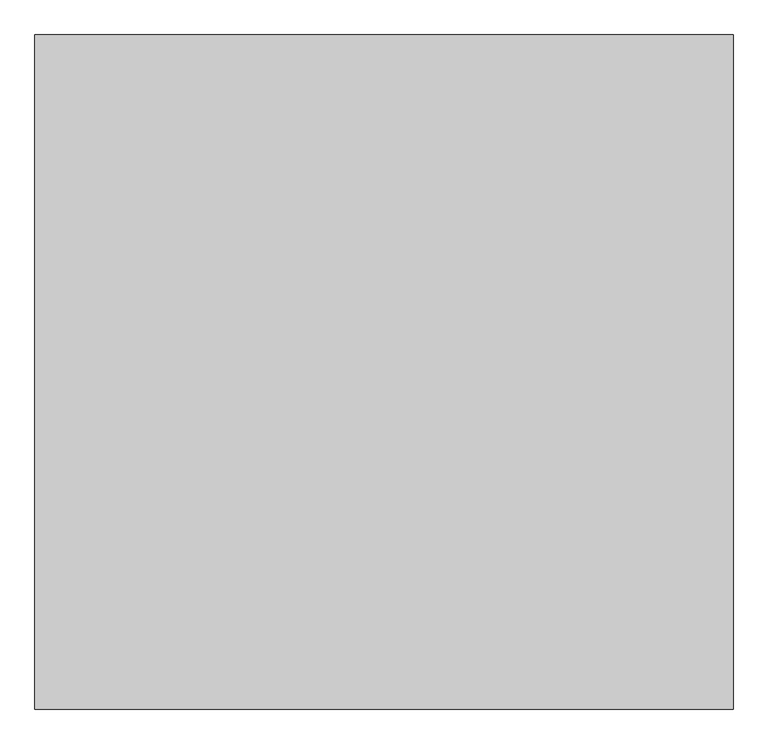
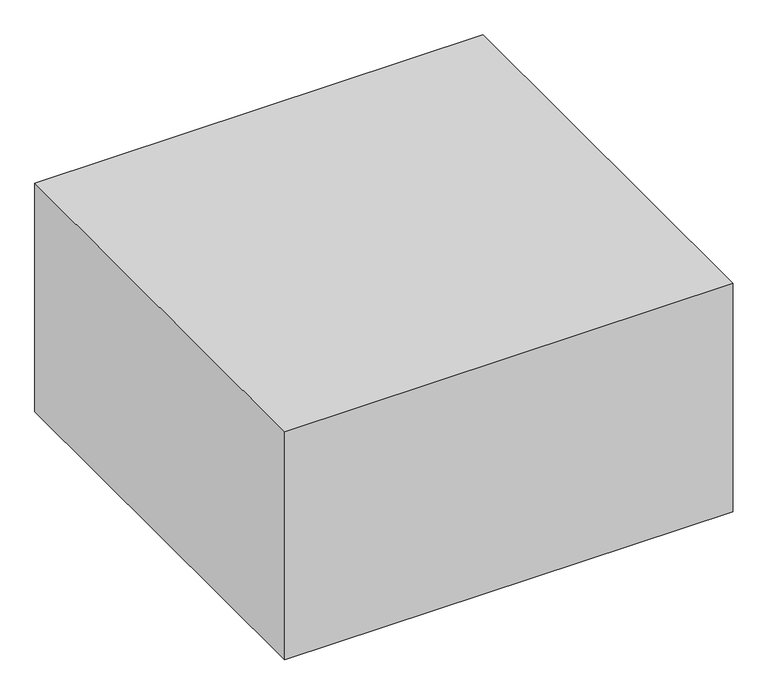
"""IFC4 building model written with IfcOpenShell, lengths in millimetres: proxy geometry."""

import ifcopenshell
import ifcopenshell.guid

model = None  # the IFC model being written
_history = None  # IfcOwnerHistory: only IFC2X3 demands one
_inside = {}  # id of a spatial element -> (the spatial element, [elements in it])
_under = {}  # id of a project, library or spatial element -> (it, [spatial elements below it])
_declared = {}  # id of a project -> (the project, [libraries it declares])
_typed = {}  # id of a type object -> (the type object, [elements of that type])
_made_of = {}  # id of a material, layer set ... -> (it, [elements and type objects made of it])


def new_model(schema):
    """Start an empty IFC model of exactly this schema.

    Asked for "IFC4X3", IfcOpenShell would pick the latest addendum, in which some entities
    have other attributes; the version numbers below select the first issue.
    IFC2X3 requires an IfcOwnerHistory on every rooted entity: one is made here for all.
    """
    global model, _history
    if schema == "IFC4X3":
        model = ifcopenshell.file(schema_version=(4, 3, 0, 0))
    else:
        model = ifcopenshell.file(schema=schema)
    _inside.clear()
    _under.clear()
    _declared.clear()
    _typed.clear()
    _made_of.clear()
    _history = None
    if model.schema == "IFC2X3":
        org = make("IfcOrganization", Name="unknown")
        user = make(
            "IfcPersonAndOrganization",
            ThePerson=make("IfcPerson", FamilyName="unknown"),
            TheOrganization=org,
        )
        app = make(
            "IfcApplication",
            ApplicationDeveloper=org,
            Version="unknown",
            ApplicationFullName="unknown",
            ApplicationIdentifier="unknown",
        )
        _history = make(
            "IfcOwnerHistory",
            OwningUser=user,
            OwningApplication=app,
            ChangeAction="ADDED",
            CreationDate=0,
        )
    return model


def make(cls, **values):
    """One entity of the class cls with the attributes given. An attribute that is None is left unset."""
    return model.create_entity(
        cls, **{name: value for name, value in values.items() if value is not None}
    )


def rooted(cls, **values):
    """An entity with a GlobalId (a new one), such as an element, a storey or a relation."""
    return make(cls, GlobalId=ifcopenshell.guid.new(), OwnerHistory=_history, **values)


def si_unit(unit_type, name, prefix=None):
    """IfcSIUnit, for example si_unit("LENGTHUNIT", "METRE", prefix="MILLI")."""
    return make("IfcSIUnit", UnitType=unit_type, Prefix=prefix, Name=name)


def assignment(units):
    """IfcUnitAssignment: the units of a project."""
    return None if units is None else make("IfcUnitAssignment", Units=units)


def point(xyz):
    """IfcCartesianPoint."""
    return None if xyz is None else make("IfcCartesianPoint", Coordinates=xyz)


def direction(xyz):
    """IfcDirection."""
    return None if xyz is None else make("IfcDirection", DirectionRatios=xyz)


def frame(location, z_axis=None, x_axis=None):
    """IfcAxis2Placement3D, a coordinate frame: its origin and axes. An axis left out is left unset."""
    return make(
        "IfcAxis2Placement3D",
        Location=point(location),
        Axis=direction(z_axis),
        RefDirection=direction(x_axis),
    )


def origin():
    """The frame at (0, 0, 0) with its axes left unset."""
    return frame((0.0, 0.0, 0.0))


def place(relative_to, where):
    """IfcLocalPlacement: puts the frame where relative to a parent placement (None: the world)."""
    return make(
        "IfcLocalPlacement", PlacementRelTo=relative_to, RelativePlacement=where
    )


def context(
    kind, dimensions, precision=None, world=None, true_north=None, identifier=None
):
    """IfcGeometricRepresentationContext, for example the 3D "Model" context."""
    return make(
        "IfcGeometricRepresentationContext",
        ContextIdentifier=identifier,
        ContextType=kind,
        CoordinateSpaceDimension=dimensions,
        Precision=precision,
        WorldCoordinateSystem=world,
        TrueNorth=true_north,
    )


def project(units=None, contexts=None):
    """IfcProject with its units and contexts."""
    return rooted(
        "IfcProject",
        Name="project",
        RepresentationContexts=contexts,
        UnitsInContext=assignment(units),
    )


def spatial(cls, under=None, at=None, **own):
    """A site, building, storey or space (cls), placed at a placement, below another one or the project."""
    s = rooted(cls, ObjectPlacement=at, **own)
    if under is not None:
        _under.setdefault(under.id(), (under, []))[1].append(s)
    return s


def polyline(points):
    """IfcPolyline through the points."""
    return make("IfcPolyline", Points=[point(p) for p in points])


def outline(outer, holes=None, kind="AREA"):
    """IfcArbitraryClosedProfileDef: a profile drawn as a closed curve; with holes, ...WithVoids."""
    if holes is None:
        return make("IfcArbitraryClosedProfileDef", ProfileType=kind, OuterCurve=outer)
    return make(
        "IfcArbitraryProfileDefWithVoids",
        ProfileType=kind,
        OuterCurve=outer,
        InnerCurves=holes,
    )


def extrude(swept, where, along, depth):
    """IfcExtrudedAreaSolid: the profile swept, set in the frame where, extruded along a direction by depth."""
    return make(
        "IfcExtrudedAreaSolid",
        SweptArea=swept,
        Position=where,
        ExtrudedDirection=direction(along),
        Depth=depth,
    )


def shape(context_of_items, identifier, shape_type, items):
    """IfcShapeRepresentation: the items that make up one representation, for example the "Body"."""
    return make(
        "IfcShapeRepresentation",
        ContextOfItems=context_of_items,
        RepresentationIdentifier=identifier,
        RepresentationType=shape_type,
        Items=items,
    )


def source(mapping_origin, context_of_items, identifier, shape_type, items):
    """IfcRepresentationMap: a shape defined once, which mapped items show again and again."""
    return make(
        "IfcRepresentationMap",
        MappingOrigin=mapping_origin,
        MappedRepresentation=shape(context_of_items, identifier, shape_type, items),
    )


def transform(
    local_origin,
    x_axis=None,
    y_axis=None,
    z_axis=None,
    scale=None,
    scale2=None,
    scale3=None,
    uniform=True,
):
    """IfcCartesianTransformationOperator3D, or its non-uniform kind. x_axis, y_axis, z_axis: its Axis1, 2, 3."""
    if uniform:
        return make(
            "IfcCartesianTransformationOperator3D",
            Axis1=direction(x_axis),
            Axis2=direction(y_axis),
            LocalOrigin=point(local_origin),
            Scale=scale,
            Axis3=direction(z_axis),
        )
    return make(
        "IfcCartesianTransformationOperator3DnonUniform",
        Axis1=direction(x_axis),
        Axis2=direction(y_axis),
        LocalOrigin=point(local_origin),
        Scale=scale,
        Axis3=direction(z_axis),
        Scale2=scale2,
        Scale3=scale3,
    )


def mapped(mapping_source, mapping_target):
    """IfcMappedItem: shows the shape of a source again, moved by a transform."""
    return make(
        "IfcMappedItem", MappingSource=mapping_source, MappingTarget=mapping_target
    )


def made_of(thing, what):
    """Note that an element or type object is made of a material, layer set ...; save() writes the relation."""
    if what is not None:
        _made_of.setdefault(what.id(), (what, []))[1].append(thing)
    return thing


def element(
    cls,
    number,
    at=None,
    inside=None,
    cuts=None,
    type_object=None,
    material=None,
    context=None,
    identifier="Body",
    shape_type=None,
    held_by="IfcProductDefinitionShape",
    body=None,
    shapes=None,
    **own,
):
    """One element of the class cls, such as IfcWall. Its Tag is "e" and its number.

    at: its placement. inside: the storey or other place that contains it. cuts: it is an
    opening in that element (IfcRelVoidsElement). A single representation is given by context,
    identifier, shape_type and body (its items); several are given by shapes. held_by: the class
    of the entity that holds the representations. save() writes the other relations.
    """
    e = rooted(cls, Tag="e%d" % number, ObjectPlacement=at, **own)
    if body is not None:
        shapes = [shape(context, identifier, shape_type, body)]
    if shapes is not None:
        e.Representation = make(held_by, Representations=shapes)
    if inside is not None:
        _inside.setdefault(inside.id(), (inside, []))[1].append(e)
    if cuts is not None:
        rooted(
            "IfcRelVoidsElement", RelatingBuildingElement=cuts, RelatedOpeningElement=e
        )
    if type_object is not None:
        _typed.setdefault(type_object.id(), (type_object, []))[1].append(e)
    return made_of(e, material)


def aggregate(whole, parts):
    """IfcRelAggregates: a whole, such as a stair, and the parts it consists of."""
    return rooted("IfcRelAggregates", RelatingObject=whole, RelatedObjects=parts)


def save(model, path):
    """Write the relations noted so far, then the file.

    IfcRelAggregates (storeys below a building ...), IfcRelContainedInSpatialStructure (elements
    in a storey), IfcRelDefinesByType, IfcRelAssociatesMaterial and IfcRelDeclares: one each for
    every whole, place, type object, material and project.
    """
    for whole, parts in _under.values():
        aggregate(whole, parts)
    for where, things in _inside.values():
        rooted(
            "IfcRelContainedInSpatialStructure",
            RelatedElements=things,
            RelatingStructure=where,
        )
    for kind, things in _typed.values():
        rooted("IfcRelDefinesByType", RelatedObjects=things, RelatingType=kind)
    for what, things in _made_of.values():
        rooted("IfcRelAssociatesMaterial", RelatedObjects=things, RelatingMaterial=what)
    for by, libraries in _declared.values():
        rooted("IfcRelDeclares", RelatingContext=by, RelatedDefinitions=libraries)
    model.write(path)


def generic_models_49b1ecfe(model_context):
    return source(origin(), model_context, "Body", "SweptSolid", [
        extrude(outline(polyline([(8155.0, -1529.0), (4998.0722713, -1529.0), (4998.0722713, 1519.0), (8155.0, 1519.0), (8155.0, -1529.0)])), frame((0.0, 0.0, 800.0), z_axis=(0.0, 0.0, 1.0), x_axis=(1.0, 0.0, 0.0)), (0.0, 0.0, 1.0), 1700.0),
    ])


if __name__ == "__main__":
    model = new_model("IFC4")
    model_context = context("Model", 3, world=origin())
    ifc_project = project(units=[si_unit("LENGTHUNIT", "METRE", prefix="MILLI")], contexts=[model_context])
    site = spatial("IfcSite", under=ifc_project)
    building = spatial("IfcBuilding", under=site)
    placement = place(None, origin())
    generic_models_shape = generic_models_49b1ecfe(model_context)
    element("IfcBuildingElementProxy", 1, Name="Generic Models", at=placement, inside=building, context=model_context, shape_type="MappedRepresentation", body=[
        mapped(generic_models_shape, transform((0.0, 0.0, 0.0), x_axis=(1.0, 0.0, 0.0), y_axis=(0.0, 1.0, 0.0), z_axis=(0.0, 0.0, 1.0))),
    ])
    save(model, "model.ifc")
